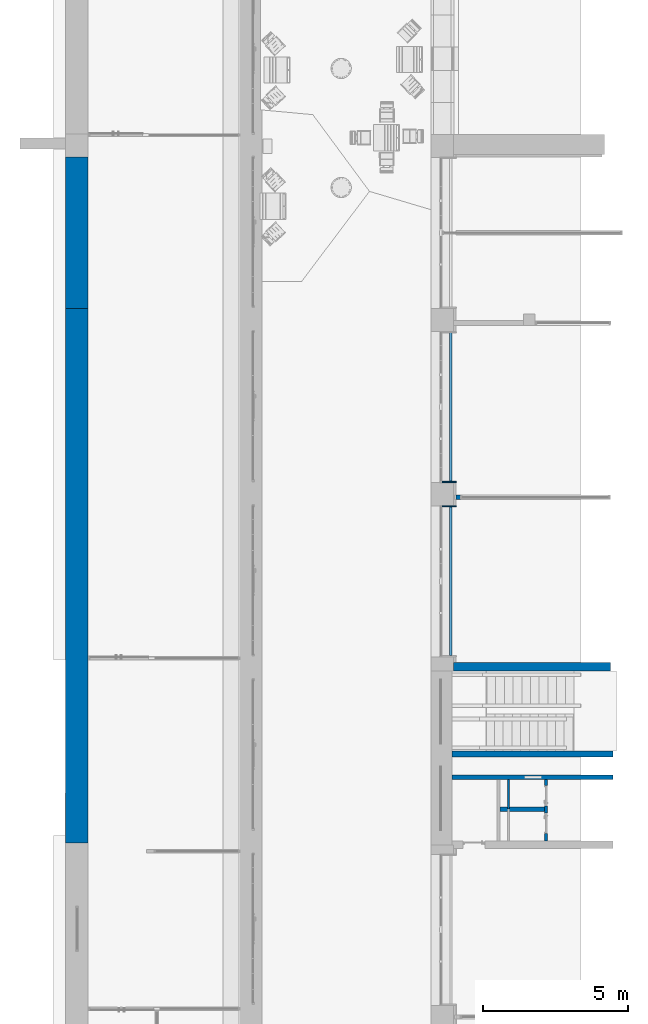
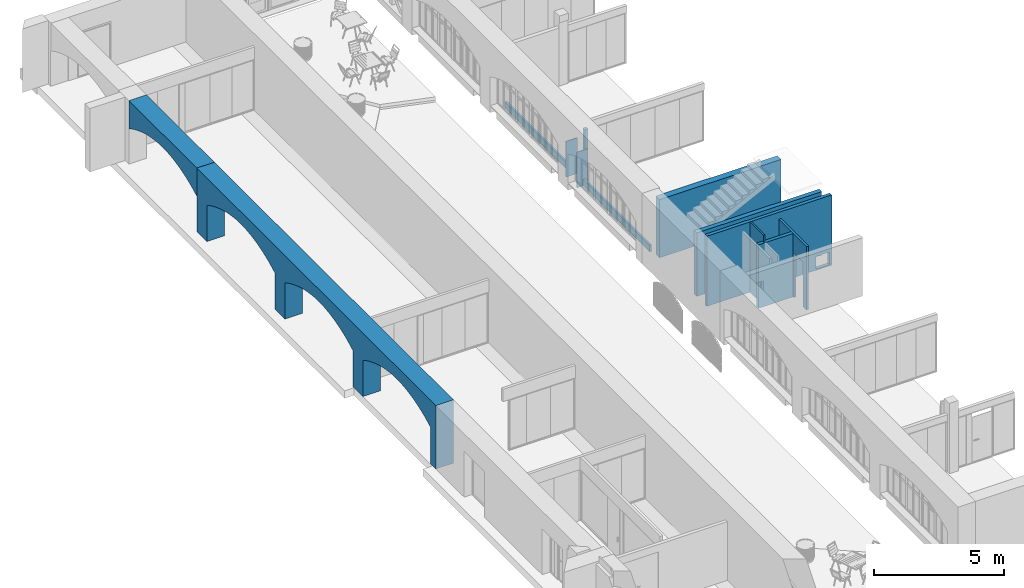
# One storey, part 73 of 88: 13 walls, 8 openings.
"""IFC2X3 building model written with IfcOpenShell, lengths in millimetres."""

from ifc_helpers import new_model, entity, si_unit, converted_unit, derived_unit, direction, frame, frame_2d, origin, place, context, subcontext, project, spatial, polyline, circle_curve, parameter, trimmed, segment, composite_curve, rectangle, outline, extrude, clip, bounded_halfspace, material, layer, layer_set, layer_usage, type_object, element, save


model = new_model("IFC2X3")

# Units and contexts
model_context = context("Model", 3, precision=0.01, world=origin(), true_north=direction((6.123031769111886e-17, 1.0)))
body_context = subcontext(model_context, "Body", "Model", "MODEL_VIEW")
ifc_project = project(units=[si_unit("LENGTHUNIT", "METRE", prefix="MILLI"), si_unit("AREAUNIT", "SQUARE_METRE"), si_unit("VOLUMEUNIT", "CUBIC_METRE"), converted_unit("PLANEANGLEUNIT", "DEGREE", entity("IfcPlaneAngleMeasure", 0.017453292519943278), si_unit("PLANEANGLEUNIT", "RADIAN"), dimensions=[0, 0, 0, 0, 0, 0, 0]), si_unit("MASSUNIT", "GRAM", prefix="KILO"), derived_unit("MASSDENSITYUNIT", [(si_unit("MASSUNIT", "GRAM", prefix="KILO"), 1), (si_unit("LENGTHUNIT", "METRE"), -3)]), derived_unit("IONCONCENTRATIONUNIT", [(si_unit("MASSUNIT", "GRAM", prefix="KILO"), 1), (si_unit("LENGTHUNIT", "METRE"), -3)]), derived_unit("MOMENTOFINERTIAUNIT", [(si_unit("LENGTHUNIT", "METRE"), 4)]), si_unit("TIMEUNIT", "SECOND"), si_unit("FREQUENCYUNIT", "HERTZ"), si_unit("THERMODYNAMICTEMPERATUREUNIT", "DEGREE_CELSIUS"), derived_unit("THERMALTRANSMITTANCEUNIT", [(si_unit("MASSUNIT", "GRAM", prefix="KILO"), 1), (si_unit("THERMODYNAMICTEMPERATUREUNIT", "KELVIN"), -1), (si_unit("TIMEUNIT", "SECOND"), -3)]), derived_unit("THERMALCONDUCTANCEUNIT", [(si_unit("MASSUNIT", "GRAM", prefix="KILO"), 1), (si_unit("THERMODYNAMICTEMPERATUREUNIT", "KELVIN"), -1), (si_unit("TIMEUNIT", "SECOND"), -3), (si_unit("LENGTHUNIT", "METRE"), 1)]), derived_unit("VOLUMETRICFLOWRATEUNIT", [(si_unit("LENGTHUNIT", "METRE", prefix="DECI"), 3), (si_unit("TIMEUNIT", "SECOND"), -1)]), derived_unit("MASSFLOWRATEUNIT", [(si_unit("MASSUNIT", "GRAM", prefix="KILO"), 1), (si_unit("TIMEUNIT", "SECOND"), -1)]), derived_unit("ROTATIONALFREQUENCYUNIT", [(si_unit("TIMEUNIT", "SECOND"), -1)]), si_unit("ELECTRICCURRENTUNIT", "AMPERE"), si_unit("ELECTRICVOLTAGEUNIT", "VOLT"), si_unit("POWERUNIT", "WATT"), si_unit("FORCEUNIT", "NEWTON", prefix="KILO"), si_unit("ILLUMINANCEUNIT", "LUX"), si_unit("LUMINOUSFLUXUNIT", "LUMEN"), si_unit("LUMINOUSINTENSITYUNIT", "CANDELA"), si_unit("ENERGYUNIT", "JOULE"), derived_unit("USERDEFINED", [(si_unit("MASSUNIT", "GRAM", prefix="KILO"), -1), (si_unit("LENGTHUNIT", "METRE"), -2), (si_unit("TIMEUNIT", "SECOND"), 3), (si_unit("LUMINOUSFLUXUNIT", "LUMEN"), 1)]), derived_unit("USERDEFINED", [(si_unit("MASSUNIT", "GRAM", prefix="KILO"), 1), (si_unit("TIMEUNIT", "SECOND"), -3), (si_unit("LENGTHUNIT", "METRE"), 3), (si_unit("ELECTRICCURRENTUNIT", "AMPERE"), -2)]), derived_unit("SOUNDPOWERUNIT", [(si_unit("MASSUNIT", "GRAM", prefix="KILO"), 1), (si_unit("TIMEUNIT", "SECOND"), -3), (si_unit("LENGTHUNIT", "METRE"), 2)]), derived_unit("SOUNDPRESSUREUNIT", [(si_unit("MASSUNIT", "GRAM", prefix="KILO"), 1), (si_unit("LENGTHUNIT", "METRE"), -1), (si_unit("TIMEUNIT", "SECOND"), -2)]), derived_unit("LINEARVELOCITYUNIT", [(si_unit("LENGTHUNIT", "METRE"), 1), (si_unit("TIMEUNIT", "SECOND"), -1)]), si_unit("PRESSUREUNIT", "PASCAL"), derived_unit("USERDEFINED", [(si_unit("MASSUNIT", "GRAM", prefix="KILO"), 1), (si_unit("LENGTHUNIT", "METRE"), -2), (si_unit("TIMEUNIT", "SECOND"), -2)]), derived_unit("LINEARFORCEUNIT", [(si_unit("MASSUNIT", "GRAM", prefix="KILO"), 1), (si_unit("TIMEUNIT", "SECOND"), -2)]), derived_unit("PLANARFORCEUNIT", [(si_unit("MASSUNIT", "GRAM", prefix="KILO"), 1), (si_unit("LENGTHUNIT", "METRE"), -1), (si_unit("TIMEUNIT", "SECOND"), -2)]), derived_unit("SPECIFICHEATCAPACITYUNIT", [(si_unit("THERMODYNAMICTEMPERATUREUNIT", "KELVIN"), -1), (si_unit("LENGTHUNIT", "METRE"), 2), (si_unit("TIMEUNIT", "SECOND"), -2)]), derived_unit("HEATFLUXDENSITYUNIT", [(si_unit("MASSUNIT", "GRAM", prefix="KILO"), 1), (si_unit("TIMEUNIT", "SECOND"), -3)]), derived_unit("HEATINGVALUEUNIT", [(si_unit("LENGTHUNIT", "METRE"), 2), (si_unit("TIMEUNIT", "SECOND"), -2)]), derived_unit("VAPORPERMEABILITYUNIT", [(si_unit("LENGTHUNIT", "METRE"), -1), (si_unit("TIMEUNIT", "SECOND"), 1)]), derived_unit("DYNAMICVISCOSITYUNIT", [(si_unit("MASSUNIT", "GRAM", prefix="KILO"), 1), (si_unit("TIMEUNIT", "SECOND"), -1), (si_unit("LENGTHUNIT", "METRE"), -1)]), derived_unit("THERMALEXPANSIONCOEFFICIENTUNIT", [(si_unit("THERMODYNAMICTEMPERATUREUNIT", "KELVIN"), -1)]), derived_unit("MODULUSOFELASTICITYUNIT", [(si_unit("MASSUNIT", "GRAM", prefix="KILO"), 1), (si_unit("LENGTHUNIT", "METRE"), -1), (si_unit("TIMEUNIT", "SECOND"), -2)]), derived_unit("ISOTHERMALMOISTURECAPACITYUNIT", [(si_unit("MASSUNIT", "GRAM", prefix="KILO"), -1), (si_unit("LENGTHUNIT", "METRE"), 3)]), derived_unit("MOISTUREDIFFUSIVITYUNIT", [(si_unit("TIMEUNIT", "SECOND"), -1), (si_unit("LENGTHUNIT", "METRE"), 2)]), derived_unit("MASSPERLENGTHUNIT", [(si_unit("MASSUNIT", "GRAM", prefix="KILO"), 1), (si_unit("LENGTHUNIT", "METRE"), -1)]), derived_unit("THERMALRESISTANCEUNIT", [(si_unit("MASSUNIT", "GRAM", prefix="KILO"), -1), (si_unit("TIMEUNIT", "SECOND"), 3), (si_unit("THERMODYNAMICTEMPERATUREUNIT", "KELVIN"), 1)]), derived_unit("ACCELERATIONUNIT", [(si_unit("LENGTHUNIT", "METRE"), 1), (si_unit("TIMEUNIT", "SECOND"), -2)]), derived_unit("ANGULARVELOCITYUNIT", [(si_unit("TIMEUNIT", "SECOND"), -1), (si_unit("PLANEANGLEUNIT", "RADIAN"), 1)]), derived_unit("LINEARSTIFFNESSUNIT", [(si_unit("MASSUNIT", "GRAM", prefix="KILO"), 1), (si_unit("TIMEUNIT", "SECOND"), -2)]), derived_unit("WARPINGCONSTANTUNIT", [(si_unit("LENGTHUNIT", "METRE"), 6)]), derived_unit("LINEARMOMENTUNIT", [(si_unit("MASSUNIT", "GRAM", prefix="KILO"), 1), (si_unit("LENGTHUNIT", "METRE"), 1), (si_unit("TIMEUNIT", "SECOND"), -2)]), derived_unit("TORQUEUNIT", [(si_unit("MASSUNIT", "GRAM", prefix="KILO"), 1), (si_unit("LENGTHUNIT", "METRE"), 2), (si_unit("TIMEUNIT", "SECOND"), -2)])], contexts=[model_context])

# Site, building, storey
site_placement = place(None, origin())
site = spatial("IfcSite", under=ifc_project, at=site_placement, Name="Default", CompositionType="ELEMENT")
building_placement = place(site_placement, origin())
building = spatial("IfcBuilding", under=site, at=building_placement, Name="Eesti Rahvusraamatukogu hoone renoveerimise projekteerimistööd", CompositionType="ELEMENT")
storey_placement = place(building_placement, origin())
storey = spatial("IfcBuildingStorey", under=building, at=storey_placement, Name="1. korrus", CompositionType="ELEMENT", Elevation=0.0)

# Wall, openings
ifc_material_1 = material(Name="ol. olev materjal")
ifc_layer_1 = layer(ifc_material_1, 780.0)
ifc_layer_set_1 = layer_set([ifc_layer_1], Name="Basic Wall:ol. olev - 780mm")
ifc_layer_usage_1 = layer_usage(ifc_layer_set_1, "AXIS2", "NEGATIVE", 390.0)
wall_type_1 = type_object("IfcWallType", Name="Basic Wall:ol. olev - 780mm", PredefinedType="STANDARD", material=ifc_layer_set_1)
wall_1_placement = place(storey_placement, frame((-48970.0, 42775.6605555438, 0.0), z_axis=(0.0, 0.0, 1.0), x_axis=(0.0, -1.0, 0.0)))
wall_1 = element("IfcWallStandardCase", 1, at=wall_1_placement, inside=storey, type_object=wall_type_1, material=ifc_layer_usage_1, Name="Basic Wall:ol. olev - 780mm", ObjectType="Basic Wall:ol. olev - 780mm", context=body_context, shape_type="SweptSolid", body=[
    extrude(rectangle(XDim=18393.265138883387, YDim=779.9999999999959, at=frame_2d((9196.632569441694, -1.4495071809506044e-12), x_axis=(1.0, 0.0))), origin(), (0.0, 0.0, 1.0), 2980.0000000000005),
])
opening_1_placement = place(wall_1_placement, frame((42775.660555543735, 48970.0, 0.0)))
element("IfcOpeningElement", 2, at=opening_1_placement, cuts=wall_1, Name="Basic Wall:ol. olev - 780mm", ObjectType="Opening", context=body_context, shape_type="SweptSolid", body=[
    extrude(outline(composite_curve([segment(polyline([(-1165.0, -2610.0), (540.0, -2610.0)]), True, "CONTINUOUS"), segment(trimmed(circle_curve(frame_2d((-4212.534220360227, 84.40586071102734), x_axis=(0.0, -1.0)), 5463.18629171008), [parameter(60.44932733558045)], [parameter(89.11474883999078)], True, "PARAMETER"), True, "CONTINUOUS"), segment(trimmed(circle_curve(frame_2d((-4212.534220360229, -84.40586071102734), x_axis=(0.0, -1.0)), 5463.1862917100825), [parameter(90.88525116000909)], [parameter(119.55067266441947)], True, "PARAMETER"), True, "CONTINUOUS"), segment(polyline([(540.0, 2610.0), (-1165.0, 2610.0)]), True, "CONTINUOUS"), segment(polyline([(-1165.0, 2610.0), (-1165.0, -2610.0)]), True, "CONTINUOUS")], self_intersect=False)), frame((-27385.660555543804, -50104.0, 1165.0), z_axis=(0.0, 1.0, 0.0), x_axis=(0.0, 0.0, 1.0)), (0.0, 0.0, 1.0), 3048.0),
])
opening_2_placement = place(wall_1_placement, frame((42775.660555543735, 48970.0, 0.0)))
element("IfcOpeningElement", 3, at=opening_2_placement, cuts=wall_1, Name="Basic Wall:ol. olev - 780mm", ObjectType="Opening", context=body_context, shape_type="SweptSolid", body=[
    extrude(outline(composite_curve([segment(polyline([(-1165.0, -2610.0), (540.0, -2610.0)]), True, "CONTINUOUS"), segment(trimmed(circle_curve(frame_2d((-4212.534220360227, 84.40586071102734), x_axis=(0.0, -1.0)), 5463.18629171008), [parameter(60.44932733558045)], [parameter(89.11474883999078)], True, "PARAMETER"), True, "CONTINUOUS"), segment(trimmed(circle_curve(frame_2d((-4212.534220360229, -84.40586071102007), x_axis=(0.0, -1.0)), 5463.1862917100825), [parameter(90.88525116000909)], [parameter(119.55067266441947)], True, "PARAMETER"), True, "CONTINUOUS"), segment(polyline([(540.0, 2610.0), (-1165.0, 2610.0)]), True, "CONTINUOUS"), segment(polyline([(-1165.0, 2610.0), (-1165.0, -2610.0)]), True, "CONTINUOUS")], self_intersect=False)), frame((-33385.660555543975, -50104.0, 1165.0), z_axis=(0.0, 1.0, 0.0), x_axis=(0.0, 0.0, 1.0)), (0.0, 0.0, 1.0), 3048.0),
])
opening_3_placement = place(wall_1_placement, frame((42775.660555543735, 48970.0, 0.0)))
element("IfcOpeningElement", 4, at=opening_3_placement, cuts=wall_1, Name="Basic Wall:ol. olev - 780mm", ObjectType="Opening", context=body_context, shape_type="SweptSolid", body=[
    extrude(outline(composite_curve([segment(polyline([(-1165.0, -2610.0), (540.0, -2610.0)]), True, "CONTINUOUS"), segment(trimmed(circle_curve(frame_2d((-4212.534220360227, 84.40586071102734), x_axis=(0.0, -1.0)), 5463.18629171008), [parameter(60.44932733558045)], [parameter(89.11474883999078)], True, "PARAMETER"), True, "CONTINUOUS"), segment(trimmed(circle_curve(frame_2d((-4212.534220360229, -84.40586071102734), x_axis=(0.0, -1.0)), 5463.1862917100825), [parameter(90.88525116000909)], [parameter(119.55067266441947)], True, "PARAMETER"), True, "CONTINUOUS"), segment(polyline([(540.0, 2610.0), (-1165.0, 2610.0)]), True, "CONTINUOUS"), segment(polyline([(-1165.0, 2610.0), (-1165.0, -2610.0)]), True, "CONTINUOUS")], self_intersect=False)), frame((-39385.660555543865, -50104.0, 1165.0), z_axis=(0.0, 1.0, 0.0), x_axis=(0.0, 0.0, 1.0)), (0.0, 0.0, 1.0), 3048.0),
])

# Wall, opening
ifc_layer_usage_2 = layer_usage(ifc_layer_set_1, "AXIS2", "NEGATIVE", 390.0)
wall_2_placement = place(storey_placement, frame((-48970.0, 47995.66055554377, 1658.404727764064), z_axis=(0.0, 0.0, 1.0), x_axis=(0.0, -1.0, 0.0)))
wall_2 = element("IfcWallStandardCase", 5, at=wall_2_placement, inside=storey, type_object=wall_type_1, material=ifc_layer_usage_2, Name="Basic Wall:ol. olev - 780mm", ObjectType="Basic Wall:ol. olev - 780mm", context=body_context, shape_type="SweptSolid", body=[
    extrude(rectangle(XDim=5220.000000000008, YDim=779.9999999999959, at=frame_2d((2610.000000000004, -2.2737367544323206e-13), x_axis=(-1.0, 0.0))), origin(), (0.0, 0.0, 1.0), 1321.5952722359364),
])
opening_4_placement = place(wall_2_placement, frame((47995.66055554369, 48970.0, -1658.404727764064)))
element("IfcOpeningElement", 6, at=opening_4_placement, cuts=wall_2, Name="Basic Wall:ol. olev - 780mm", ObjectType="Opening", context=body_context, shape_type="SweptSolid", body=[
    extrude(outline(composite_curve([segment(polyline([(-1138.0, -2610.0), (522.0, -2610.0)]), True, "CONTINUOUS"), segment(trimmed(circle_curve(frame_2d((-4230.534220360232, 84.40586071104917), x_axis=(0.0, -1.0)), 5463.186291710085), [parameter(60.44932733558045)], [parameter(89.11474883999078)], True, "PARAMETER"), True, "CONTINUOUS"), segment(trimmed(circle_curve(frame_2d((-4230.534220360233, -84.40586071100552), x_axis=(0.0, -1.0)), 5463.186291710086), [parameter(90.88525116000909)], [parameter(119.55067266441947)], True, "PARAMETER"), True, "CONTINUOUS"), segment(polyline([(522.0, 2610.0), (-1138.0, 2610.0)]), True, "CONTINUOUS"), segment(polyline([(-1138.0, 2610.0), (-1138.0, -2610.0)]), True, "CONTINUOUS")], self_intersect=False)), frame((-45385.660555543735, -50104.0, 1138.0), z_axis=(0.0, 1.0, 0.0), x_axis=(0.0, 0.0, 1.0)), (0.0, 0.0, 1.0), 3048.0),
])

# Walls
ifc_layer_2 = layer(ifc_material_1, 290.0)
ifc_layer_set_2 = layer_set([ifc_layer_2], Name="Basic Wall:ol. olev - 290mm")
ifc_layer_usage_3 = layer_usage(ifc_layer_set_2, "AXIS2", "NEGATIVE", 145.0)
wall_type_2 = type_object("IfcWallType", Name="Basic Wall:ol. olev - 290mm", PredefinedType="STANDARD", material=ifc_layer_set_2)
wall_3_placement = place(storey_placement, frame((-36000.0, 30450.0, 1650.0)))
element("IfcWallStandardCase", 7, at=wall_3_placement, inside=storey, type_object=wall_type_2, material=ifc_layer_usage_3, Name="Basic Wall:ol. olev - 290mm", ObjectType="Basic Wall:ol. olev - 290mm", context=body_context, shape_type="SweptSolid", body=[
    extrude(rectangle(XDim=5400.000000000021, YDim=290.0000000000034, at=frame_2d((2700.0000000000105, -9.947598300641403e-14), x_axis=(-1.0, 0.0))), origin(), (0.0, 0.0, 1.0), 2730.0000000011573),
])
ifc_layer_3 = layer(ifc_material_1, 200.0)
ifc_layer_set_3 = layer_set([ifc_layer_3], Name="Basic Wall:ol. olev - 200mm")
ifc_layer_usage_4 = layer_usage(ifc_layer_set_3, "AXIS2", "NEGATIVE", 100.0)
wall_type_3 = type_object("IfcWallType", Name="Basic Wall:ol. olev - 200mm", PredefinedType="STANDARD", material=ifc_layer_set_3)
wall_4_placement = place(storey_placement, frame((-36060.0, 27445.0, 1650.0)))
element("IfcWallStandardCase", 8, at=wall_4_placement, inside=storey, type_object=wall_type_3, material=ifc_layer_usage_4, Name="Basic Wall:ol. olev - 200mm", ObjectType="Basic Wall:ol. olev - 200mm", context=body_context, shape_type="Clipping", body=[
    clip(extrude(rectangle(XDim=5550.00000000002, YDim=199.99999999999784, at=frame_2d((2775.00000000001, 0.0), x_axis=(-1.0, 0.0))), origin(), (0.0, 0.0, 1.0), 2980.0000000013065), bounded_halfspace(frame((20.0, -100.0, 2980.0), z_axis=(0.0, 0.0, -1.0), x_axis=(1.0, 0.0, 0.0)), True, frame((20.0, -100.0, 2980.0)), polyline([(0.0, 0.0), (5530.0, 0.0), (5530.0, 200.0), (0.0, 200.0), (0.0, 0.0)]))),
])

# Wall, openings
ifc_material_2 = material(Name="EST. Müüritis. Väikeplokk. Poorbetoonplokk")
ifc_layer_4 = layer(ifc_material_2, 100.0)
ifc_layer_set_4 = layer_set([ifc_layer_4], Name="Basic Wall:SS-70 - 100 poorbetoon")
ifc_layer_usage_5 = layer_usage(ifc_layer_set_4, "AXIS2", "NEGATIVE", 50.0)
wall_type_4 = type_object("IfcWallType", Name="Basic Wall:SS-70 - 100 poorbetoon", PredefinedType="STANDARD", material=ifc_layer_set_4)
wall_5_placement = place(storey_placement, frame((-32815.0, 26570.0, 1650.0), z_axis=(0.0, 0.0, 1.0), x_axis=(0.0, -1.0, 0.0)))
wall_5 = element("IfcWallStandardCase", 9, at=wall_5_placement, inside=storey, type_object=wall_type_4, material=ifc_layer_usage_5, Name="Basic Wall:SS-70 - 100 poorbetoon", ObjectType="Basic Wall:SS-70 - 100 poorbetoon", context=body_context, shape_type="SweptSolid", body=[
    extrude(rectangle(XDim=2129.9999999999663, YDim=100.00000000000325, at=frame_2d((1064.9999999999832, -2.842170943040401e-14), x_axis=(-1.0, 0.0))), origin(), (0.0, 0.0, 1.0), 2980.000000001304),
])
opening_5_placement = place(wall_5_placement, frame((1156.99814021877, -50.0, 0.0)))
element("IfcOpeningElement", 10, at=opening_5_placement, cuts=wall_5, Name="SMA_D01, 1-poolne:uus puituks - 700x2100 lävepakuta 2:1", ObjectType="Opening", context=body_context, shape_type="SweptSolid", body=[
    extrude(rectangle(XDim=2099.999999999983, YDim=699.9999999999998, at=frame_2d((1049.9999999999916, 349.9999999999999), x_axis=(1.0, 0.0))), frame((0.0, 0.0, 0.0), z_axis=(0.0, 1.0, 0.0), x_axis=(0.0, 0.0, 1.0)), (0.0, 0.0, 1.0), 100.0),
])
opening_6_placement = place(wall_5_placement, frame((215.0, -50.0, 0.0)))
element("IfcOpeningElement", 11, at=opening_6_placement, cuts=wall_5, Name="SMA_D01, 1-poolne:uus puituks - 700x2100 lävepakuta 2:1", ObjectType="Opening", context=body_context, shape_type="SweptSolid", body=[
    extrude(rectangle(XDim=2099.999999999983, YDim=699.9999999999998, at=frame_2d((1049.9999999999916, 349.9999999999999), x_axis=(1.0, 0.0))), frame((0.0, 0.0, 0.0), z_axis=(0.0, 1.0, 0.0), x_axis=(0.0, 0.0, 1.0)), (0.0, 0.0, 1.0), 100.0),
])

# Walls
ifc_material_3 = material(Name="EST. Ehitusplaat. Kipsplaat")
ifc_layer_5 = layer(ifc_material_3, 12.5)
ifc_layer_6 = layer(ifc_material_3, 12.5)
ifc_material_4 = material(Name="EST. Roov. Kipsplaadi alusroov.Mineraalvillaga. Vertikaalne")
ifc_layer_7 = layer(ifc_material_4, 95.00000000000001)
ifc_layer_8 = layer(ifc_material_3, 12.5)
ifc_layer_9 = layer(ifc_material_3, 12.5)
ifc_layer_set_5 = layer_set([ifc_layer_5, ifc_layer_6, ifc_layer_7, ifc_layer_8, ifc_layer_9], Name="Basic Wall:SS-52 - 145 kergsein 48db")
ifc_layer_usage_6 = layer_usage(ifc_layer_set_5, "AXIS2", "NEGATIVE", 72.5)
wall_type_5 = type_object("IfcWallType", Name="Basic Wall:SS-52 - 145 kergsein 48db", PredefinedType="STANDARD", material=ifc_layer_set_5)
wall_6_placement = place(storey_placement, frame((-35765.5000000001, 36284.74185018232, 1650.000000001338), z_axis=(0.0, 0.0, 1.0), x_axis=(-1.0, 0.0, 0.0)))
element("IfcWallStandardCase", 12, at=wall_6_placement, inside=storey, type_object=wall_type_5, material=ifc_layer_usage_6, Name="Basic Wall:SS-52 - 145 kergsein 48db", ObjectType="Basic Wall:SS-52 - 145 kergsein 48db", context=body_context, shape_type="SweptSolid", body=[
    extrude(rectangle(XDim=150.00000000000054, YDim=145.00000000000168, at=frame_2d((75.00000000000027, 0.0), x_axis=(-1.0, 0.0))), origin(), (0.0, 0.0, 1.0), 2400.0),
])
ifc_material_5 = material(Name="EST. Müüritis. Väikeplokk. Betoon-õõnesplokk")
ifc_layer_10 = layer(ifc_material_5, 150.0)
ifc_layer_set_6 = layer_set([ifc_layer_10], Name="Basic Wall:SS-71 - 150 poorbetoon acoustic")
ifc_layer_usage_7 = layer_usage(ifc_layer_set_6, "AXIS2", "NEGATIVE", 75.0)
wall_type_6 = type_object("IfcWallType", Name="Basic Wall:SS-71 - 150 poorbetoon acoustic", PredefinedType="STANDARD", material=ifc_layer_set_6)
wall_7_placement = place(storey_placement, frame((-34405.0, 25540.0, 1650.0)))
element("IfcWallStandardCase", 13, at=wall_7_placement, inside=storey, type_object=wall_type_6, material=ifc_layer_usage_7, Name="Basic Wall:SS-71 - 150 poorbetoon acoustic", ObjectType="Basic Wall:SS-71 - 150 poorbetoon acoustic", context=body_context, shape_type="SweptSolid", body=[
    extrude(rectangle(XDim=1539.9999999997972, YDim=150.00000000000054, at=frame_2d((769.9999999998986, 0.0), x_axis=(-1.0, 0.0))), origin(), (0.0, 0.0, 1.0), 2980.000000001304),
])

# Wall, openings
ifc_layer_usage_8 = layer_usage(ifc_layer_set_6, "AXIS2", "NEGATIVE", 75.0)
wall_8_placement = place(storey_placement, frame((-36060.0, 26645.0, 1650.0)))
wall_8 = element("IfcWallStandardCase", 14, at=wall_8_placement, inside=storey, type_object=wall_type_6, material=ifc_layer_usage_8, Name="Basic Wall:SS-71 - 150 poorbetoon acoustic", ObjectType="Basic Wall:SS-71 - 150 poorbetoon acoustic", context=body_context, shape_type="SweptSolid", body=[
    extrude(rectangle(XDim=5550.00000000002, YDim=150.00000000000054, at=frame_2d((2775.00000000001, 0.0), x_axis=(-1.0, 0.0))), origin(), (0.0, 0.0, 1.0), 3300.000000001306),
])
opening_7_placement = place(wall_8_placement, frame((3095.0, 75.0, 50.0)))
element("IfcOpeningElement", 15, at=opening_7_placement, cuts=wall_8, Name="SMA_hooldusluuk:hooldusluuk 600x600mm TTK:1", ObjectType="Opening", context=body_context, shape_type="SweptSolid", body=[
    extrude(rectangle(XDim=599.9999999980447, YDim=599.9999999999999, at=frame_2d((299.99999999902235, 299.99999999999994), x_axis=(1.0, 0.0))), frame((0.0, 0.0, 0.0), z_axis=(0.0, -1.0, 0.0), x_axis=(0.0, 0.0, 1.0)), (0.0, 0.0, 1.0), 150.0),
])
opening_8_placement = place(wall_8_placement, frame((36060.0, -26645.0, 50.0)))
element("IfcOpeningElement", 16, at=opening_8_placement, cuts=wall_8, Name="Basic Wall:SS-71 - 150 poorbetoon acoustic", ObjectType="Opening", context=body_context, shape_type="SweptSolid", body=[
    extrude(rectangle(XDim=599.9999999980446, YDim=599.9999999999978, at=frame_2d((1.4210854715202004e-13, -2.1600499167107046e-12), x_axis=(1.0, 0.0))), frame((-30910.0, 25196.0, 300.0), z_axis=(0.0, 1.0, 0.0), x_axis=(0.0, 0.0, 1.0)), (0.0, 0.0, 1.0), 3048.0),
])

# Walls
ifc_material_6 = material(Name="EST. Soojustus.PIR_Powerwall Pro")
ifc_layer_11 = layer(ifc_material_6, 30.0)
ifc_material_7 = material(Name="EST. Metall. Alumiinium. Mütsprofiil.")
ifc_layer_12 = layer(ifc_material_7, 42.0)
ifc_layer_13 = layer(ifc_material_3, 12.5)
ifc_layer_set_7 = layer_set([ifc_layer_11, ifc_layer_12, ifc_layer_13], Name="Basic Wall:VS-03.1 - soojustus")
ifc_layer_usage_9 = layer_usage(ifc_layer_set_7, "AXIS2", "POSITIVE", -42.25000000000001)
wall_type_7 = type_object("IfcWallType", Name="Basic Wall:VS-03.1 - soojustus", PredefinedType="STANDARD", material=ifc_layer_set_7)
wall_9_placement = place(storey_placement, frame((-36097.7500000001, 35950.49999999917, 1650.0), z_axis=(0.0, 0.0, 1.0), x_axis=(0.0, -1.0, 0.0)))
element("IfcWallStandardCase", 17, at=wall_9_placement, inside=storey, type_object=wall_type_7, material=ifc_layer_usage_9, Name="Basic Wall:VS-03.1 - soojustus", ObjectType="Basic Wall:VS-03.1 - soojustus", context=body_context, shape_type="SweptSolid", body=[
    extrude(rectangle(XDim=5120.999999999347, YDim=84.49999999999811, at=frame_2d((2560.4999999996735, 0.0), x_axis=(-1.0, 0.0))), origin(), (0.0, 0.0, 1.0), 319.99999999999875),
])
ifc_layer_usage_10 = layer_usage(ifc_layer_set_7, "AXIS2", "POSITIVE", -42.25000000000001)
wall_10_placement = place(storey_placement, frame((-36097.750000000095, 41950.49999999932, 1650.0), z_axis=(0.0, 0.0, 1.0), x_axis=(0.0, -1.0, 0.0)))
element("IfcWallStandardCase", 18, at=wall_10_placement, inside=storey, type_object=wall_type_7, material=ifc_layer_usage_10, Name="Basic Wall:VS-03.1 - soojustus", ObjectType="Basic Wall:VS-03.1 - soojustus", context=body_context, shape_type="SweptSolid", body=[
    extrude(rectangle(XDim=5120.9999999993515, YDim=84.49999999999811, at=frame_2d((2560.4999999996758, 0.0), x_axis=(-1.0, 0.0))), origin(), (0.0, 0.0, 1.0), 319.99999999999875),
])
ifc_layer_14 = layer(ifc_material_3, 13.000000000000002)
ifc_material_8 = material(Name="EST. Õhkvahe. Roov. Kipsplaadi alusroov. Vertikaalne")
ifc_layer_15 = layer(ifc_material_8, 67.0)
ifc_layer_set_8 = layer_set([ifc_layer_14, ifc_layer_15], Name="Basic Wall:SS-57 - 80 kergsein wc")
ifc_layer_usage_11 = layer_usage(ifc_layer_set_8, "AXIS2", "POSITIVE", -39.99999999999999)
wall_type_8 = type_object("IfcWallType", Name="Basic Wall:SS-57 - 80 kergsein wc", PredefinedType="STANDARD", material=ifc_layer_set_8)
wall_11_placement = place(storey_placement, frame((-34105.0, 25540.0, 1650.0), z_axis=(0.0, 0.0, 1.0), x_axis=(0.0, 1.0, 0.0)))
element("IfcWallStandardCase", 19, at=wall_11_placement, inside=storey, type_object=wall_type_8, material=ifc_layer_usage_11, Name="Basic Wall:SS-57 - 80 kergsein wc", ObjectType="Basic Wall:SS-57 - 80 kergsein wc", context=body_context, shape_type="SweptSolid", body=[
    extrude(rectangle(XDim=1029.9999999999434, YDim=79.99999999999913, at=frame_2d((514.9999999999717, 0.0), x_axis=(-1.0, 0.0))), origin(), (0.0, 0.0, 1.0), 3300.000000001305),
])
ifc_layer_16 = layer(ifc_material_7, 27.0)
ifc_layer_17 = layer(ifc_material_3, 12.5)
ifc_layer_set_9 = layer_set([ifc_layer_16, ifc_layer_17], Name="Basic Wall:VS-03.1_karkass+kips")
ifc_layer_usage_12 = layer_usage(ifc_layer_set_9, "AXIS2", "POSITIVE", -19.749999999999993)
wall_type_9 = type_object("IfcWallType", Name="Basic Wall:VS-03.1_karkass+kips", PredefinedType="STANDARD", material=ifc_layer_set_9)
wall_12_placement = place(storey_placement, frame((-35915.499999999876, 35970.24999999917, 1650.0), z_axis=(0.0, 0.0, 1.0), x_axis=(-1.0, 0.0, 0.0)))
element("IfcWallStandardCase", 20, at=wall_12_placement, inside=storey, type_object=wall_type_9, material=ifc_layer_usage_12, Name="Basic Wall:VS-03.1_karkass+kips", ObjectType="Basic Wall:VS-03.1_karkass+kips", context=body_context, shape_type="SweptSolid", body=[
    extrude(rectangle(XDim=489.4999999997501, YDim=39.49999999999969, at=frame_2d((244.74999999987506, 8.633094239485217e-13), x_axis=(-1.0, 0.0))), origin(), (0.0, 0.0, 1.0), 1669.9999999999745),
])
ifc_layer_usage_13 = layer_usage(ifc_layer_set_9, "AXIS2", "NEGATIVE", 19.749999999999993)
wall_13_placement = place(storey_placement, frame((-35915.49999999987, 36809.74999999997, 1650.0), z_axis=(0.0, 0.0, 1.0), x_axis=(-1.0, 0.0, 0.0)))
element("IfcWallStandardCase", 21, at=wall_13_placement, inside=storey, type_object=wall_type_9, material=ifc_layer_usage_13, Name="Basic Wall:VS-03.1_karkass+kips", ObjectType="Basic Wall:VS-03.1_karkass+kips", context=body_context, shape_type="SweptSolid", body=[
    extrude(rectangle(XDim=489.4999999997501, YDim=39.49999999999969, at=frame_2d((244.74999999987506, -8.615330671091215e-13), x_axis=(-1.0, 0.0))), origin(), (0.0, 0.0, 1.0), 1669.9999999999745),
])

save(model, "model.ifc")
